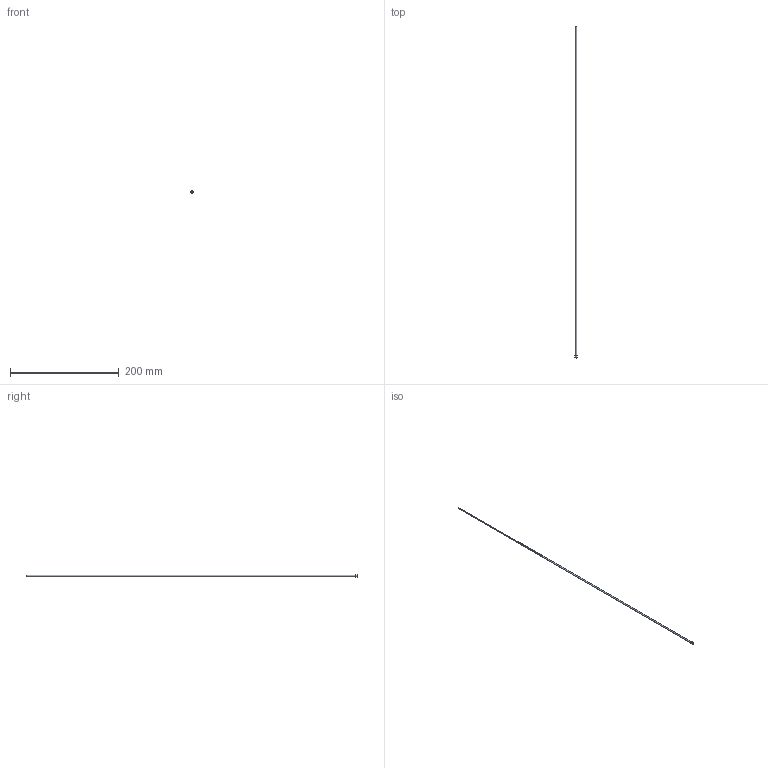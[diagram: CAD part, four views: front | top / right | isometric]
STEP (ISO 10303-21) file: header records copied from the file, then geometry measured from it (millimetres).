
FILE_DESCRIPTION(/* description */ (''),/* implementation_level */ '2;1');
FILE_NAME(/* name */ 'C:/Users/drich/Desktop/JHF090T-24 v1.step',/* time_stamp */ '2020-01-02T20:02:50-06:00',/* author */ (''),/* organization */ (''),/* preprocessor_version */ 'ST-DEVELOPER v18',/* originating_system */ 'Autodesk Translation Framework v8.12.0.6',/* authorisation */ '');
FILE_SCHEMA (('AUTOMOTIVE_DESIGN { 1 0 10303 214 3 1 1 }'));
Length unit declared in the file: inch
Products named in the file (1): JHF090T-24
Bounding box: 4.8 x 609.6 x 4.8 mm (x, y, z)
Volume: 786.5 mm3; surface area: 8138.9 mm2
Topology: 1 solids, 1 shells, 10 faces, 25 edges, 19 vertices
Faces by surface type: cylinder 4, plane 4, cone 1, torus 1
Full cylindrical faces by diameter (mm): 1.93 x1, 2.286 x1, 4.75 x1, 4.801 x1
Entity records: 364 total; most frequent: DIRECTION 67, CARTESIAN_POINT 55, ORIENTED_EDGE 50, AXIS2_PLACEMENT_3D 31, EDGE_CURVE 25, CIRCLE 20, VERTEX_POINT 19, EDGE_LOOP 14
